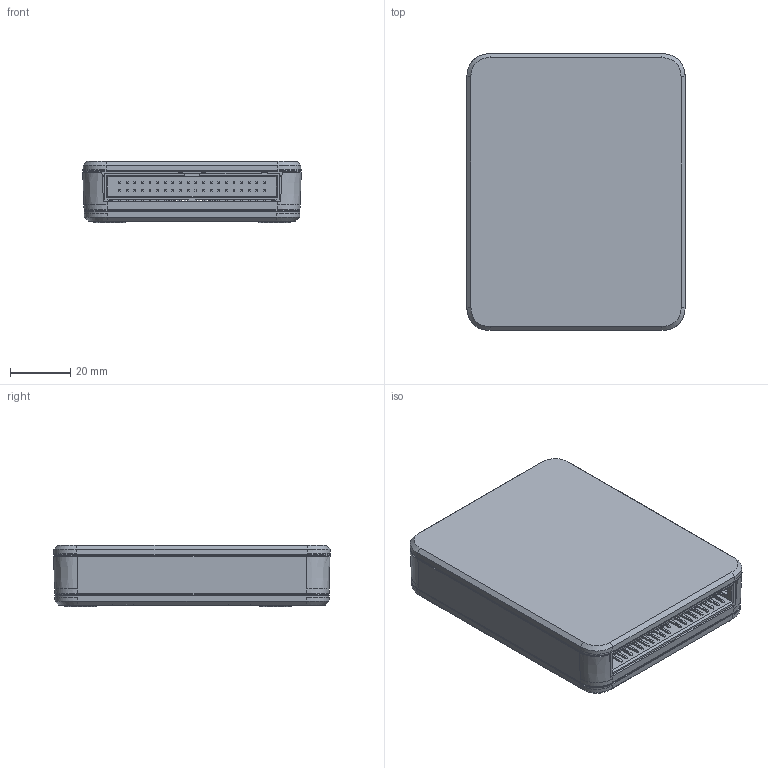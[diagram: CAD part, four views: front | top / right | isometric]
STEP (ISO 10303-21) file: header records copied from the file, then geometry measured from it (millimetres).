
FILE_DESCRIPTION((''),'2;1');
FILE_NAME('CU_USB-8452','2016-05-17T',('dkendric'),(''),'CREO PARAMETRIC BY PTC INC, 2015380','CREO PARAMETRIC BY PTC INC, 2015380','');
FILE_SCHEMA(('CONFIG_CONTROL_DESIGN'));
Products named in the file (1): CU_USB-8452
Bounding box: 72.68 x 92.11 x 20.32 mm (x, y, z)
Volume: 56411.7 mm3; surface area: 61698.8 mm2
Topology: 1 solids, 1 shells, 3575 faces, 9490 edges, 5906 vertices
Faces by surface type: plane 2044, cylinder 901, bspline 292, sphere 124, torus 114, cone 90, extrusion 10
Entity records: 125943 total; most frequent: CARTESIAN_POINT 39724, ORIENTED_EDGE 18956, DIRECTION 16280, EDGE_CURVE 9478, VECTOR 6342, LINE 6332, VERTEX_POINT 5906, AXIS2_PLACEMENT_3D 4969
